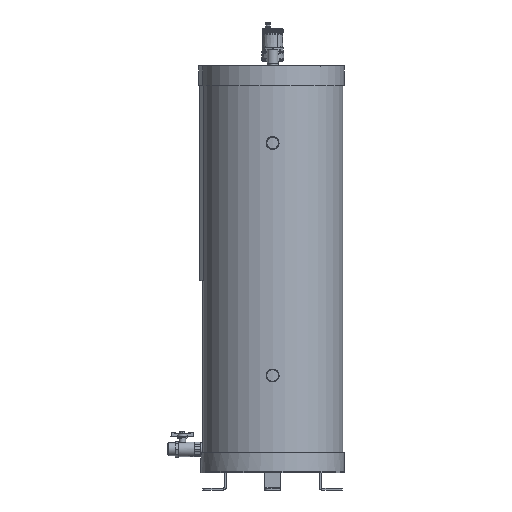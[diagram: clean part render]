
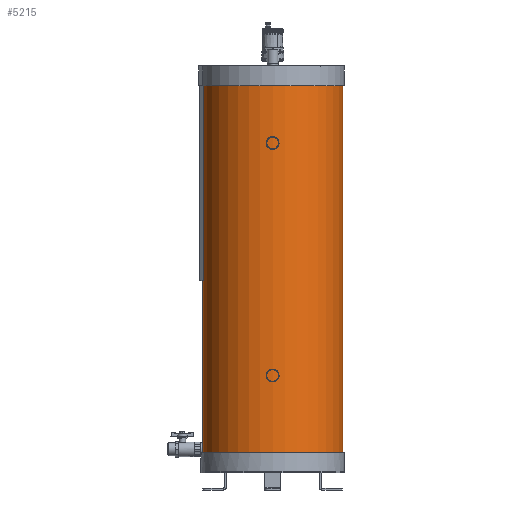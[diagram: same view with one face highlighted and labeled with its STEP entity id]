
A CAD part, front view. The second image highlights one B-rep face of the part: STEP entity #5215.
In plain terms, the highlighted cylindrical face has radius 181 mm (diameter 362 mm), a full revolution.
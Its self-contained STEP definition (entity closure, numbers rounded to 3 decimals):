
#5215 = ADVANCED_FACE('',(#5216),#5229,.T.);
#5216 = FACE_BOUND('',#5217,.F.);
#5217 = EDGE_LOOP('',(#5218,#5252,#5275,#5302));
#5218 = ORIENTED_EDGE('',*,*,#5219,.F.);
#5219 = EDGE_CURVE('',#5220,#5220,#5222,.T.);
#5220 = VERTEX_POINT('',#5221);
#5221 = CARTESIAN_POINT('',(0.,-232.629,
    -1048.));
#5222 = SURFACE_CURVE('',#5223,(#5228,#5240),.PCURVE_S1.);
#5223 = CIRCLE('',#5224,181.);
#5224 = AXIS2_PLACEMENT_3D('',#5225,#5226,#5227);
#5225 = CARTESIAN_POINT('',(0.,-51.629,-1048.)
  );
#5226 = DIRECTION('',(0.,0.,1.));
#5227 = DIRECTION('',(0.,-1.,0.));
#5228 = PCURVE('',#5229,#5234);
#5229 = CYLINDRICAL_SURFACE('',#5230,181.);
#5230 = AXIS2_PLACEMENT_3D('',#5231,#5232,#5233);
#5231 = CARTESIAN_POINT('',(0.,-51.629,-1048.)
  );
#5232 = DIRECTION('',(0.,0.,-1.));
#5233 = DIRECTION('',(0.,-1.,0.));
#5234 = DEFINITIONAL_REPRESENTATION('',(#5235),#5239);
#5235 = LINE('',#5236,#5237);
#5236 = CARTESIAN_POINT('',(-0.,0.));
#5237 = VECTOR('',#5238,1.);
#5238 = DIRECTION('',(-1.,0.));
#5239 = ( GEOMETRIC_REPRESENTATION_CONTEXT(2) 
PARAMETRIC_REPRESENTATION_CONTEXT() REPRESENTATION_CONTEXT('2D SPACE',''
  ) );
#5240 = PCURVE('',#5241,#5246);
#5241 = PLANE('',#5242);
#5242 = AXIS2_PLACEMENT_3D('',#5243,#5244,#5245);
#5243 = CARTESIAN_POINT('',(0.,-51.629,
    -1048.));
#5244 = DIRECTION('',(0.,0.,1.));
#5245 = DIRECTION('',(0.,-1.,0.));
#5246 = DEFINITIONAL_REPRESENTATION('',(#5247),#5251);
#5247 = CIRCLE('',#5248,181.);
#5248 = AXIS2_PLACEMENT_2D('',#5249,#5250);
#5249 = CARTESIAN_POINT('',(0.,0.));
#5250 = DIRECTION('',(1.,0.));
#5251 = ( GEOMETRIC_REPRESENTATION_CONTEXT(2) 
PARAMETRIC_REPRESENTATION_CONTEXT() REPRESENTATION_CONTEXT('2D SPACE',''
  ) );
#5252 = ORIENTED_EDGE('',*,*,#5253,.T.);
#5253 = EDGE_CURVE('',#5220,#5254,#5256,.T.);
#5254 = VERTEX_POINT('',#5255);
#5255 = CARTESIAN_POINT('',(0.,-232.629,-2.));
#5256 = SEAM_CURVE('',#5257,(#5261,#5268),.PCURVE_S1.);
#5257 = LINE('',#5258,#5259);
#5258 = CARTESIAN_POINT('',(0.,-232.629,
    -1048.));
#5259 = VECTOR('',#5260,1.);
#5260 = DIRECTION('',(0.,0.,1.));
#5261 = PCURVE('',#5229,#5262);
#5262 = DEFINITIONAL_REPRESENTATION('',(#5263),#5267);
#5263 = LINE('',#5264,#5265);
#5264 = CARTESIAN_POINT('',(-6.283,0.));
#5265 = VECTOR('',#5266,1.);
#5266 = DIRECTION('',(-0.,-1.));
#5267 = ( GEOMETRIC_REPRESENTATION_CONTEXT(2) 
PARAMETRIC_REPRESENTATION_CONTEXT() REPRESENTATION_CONTEXT('2D SPACE',''
  ) );
#5268 = PCURVE('',#5229,#5269);
#5269 = DEFINITIONAL_REPRESENTATION('',(#5270),#5274);
#5270 = LINE('',#5271,#5272);
#5271 = CARTESIAN_POINT('',(-0.,0.));
#5272 = VECTOR('',#5273,1.);
#5273 = DIRECTION('',(-0.,-1.));
#5274 = ( GEOMETRIC_REPRESENTATION_CONTEXT(2) 
PARAMETRIC_REPRESENTATION_CONTEXT() REPRESENTATION_CONTEXT('2D SPACE',''
  ) );
#5275 = ORIENTED_EDGE('',*,*,#5276,.F.);
#5276 = EDGE_CURVE('',#5254,#5254,#5277,.T.);
#5277 = SURFACE_CURVE('',#5278,(#5283,#5290),.PCURVE_S1.);
#5278 = CIRCLE('',#5279,181.);
#5279 = AXIS2_PLACEMENT_3D('',#5280,#5281,#5282);
#5280 = CARTESIAN_POINT('',(0.,-51.629,-2.));
#5281 = DIRECTION('',(-0.,0.,-1.));
#5282 = DIRECTION('',(0.,-1.,0.));
#5283 = PCURVE('',#5229,#5284);
#5284 = DEFINITIONAL_REPRESENTATION('',(#5285),#5289);
#5285 = LINE('',#5286,#5287);
#5286 = CARTESIAN_POINT('',(-6.283,-1046.));
#5287 = VECTOR('',#5288,1.);
#5288 = DIRECTION('',(1.,-0.));
#5289 = ( GEOMETRIC_REPRESENTATION_CONTEXT(2) 
PARAMETRIC_REPRESENTATION_CONTEXT() REPRESENTATION_CONTEXT('2D SPACE',''
  ) );
#5290 = PCURVE('',#5291,#5296);
#5291 = PLANE('',#5292);
#5292 = AXIS2_PLACEMENT_3D('',#5293,#5294,#5295);
#5293 = CARTESIAN_POINT('',(-8.479,-51.629,-2.));
#5294 = DIRECTION('',(0.,0.,-1.));
#5295 = DIRECTION('',(0.,1.,0.));
#5296 = DEFINITIONAL_REPRESENTATION('',(#5297),#5301);
#5297 = CIRCLE('',#5298,181.);
#5298 = AXIS2_PLACEMENT_2D('',#5299,#5300);
#5299 = CARTESIAN_POINT('',(0.,8.479));
#5300 = DIRECTION('',(-1.,0.));
#5301 = ( GEOMETRIC_REPRESENTATION_CONTEXT(2) 
PARAMETRIC_REPRESENTATION_CONTEXT() REPRESENTATION_CONTEXT('2D SPACE',''
  ) );
#5302 = ORIENTED_EDGE('',*,*,#5253,.F.);
